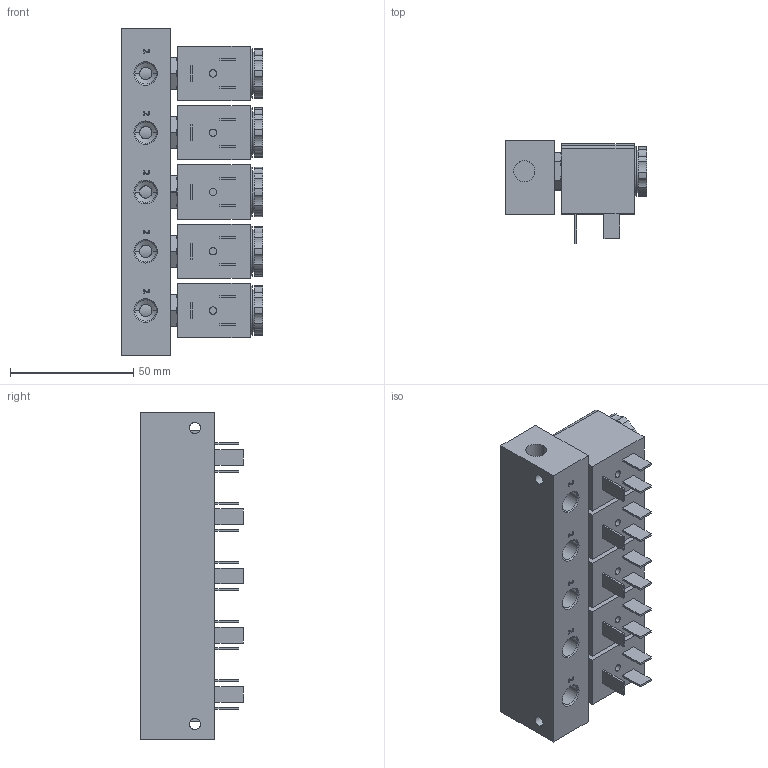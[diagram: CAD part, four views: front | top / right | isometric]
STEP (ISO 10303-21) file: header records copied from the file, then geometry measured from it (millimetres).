
FILE_DESCRIPTION (( 'STEP AP214' ), '1' );
FILE_NAME ('MS-18-310_5-HN-412_Airtec.step', '2018-12-14T07:41:48', ( '' ), ( '' ), 'SwSTEP 2.0', 'SolidWorks 2010', '' );
FILE_SCHEMA (( 'AUTOMOTIVE_DESIGN' ));
Length unit declared in the file: millimetre
Products named in the file (3): Volumenkörper4; Volumenkörper1; MS-18-310_5-HN-412_Airtec
Assembly tree (6 placements, depth 2):
  MS-18-310_5-HN-412_Airtec
    Volumenkörper1  x5
    Volumenkörper4
Bounding box: 57.45 x 41.7 x 132 mm (x, y, z)
Volume: 175326.6 mm3; surface area: 54687.3 mm2
Topology: 6 solids, 16 shells, 1047 faces, 2563 edges, 1662 vertices
Faces by surface type: cylinder 382, plane 350, bspline 140, cone 135, torus 40
Entity records: 37882 total; most frequent: CARTESIAN_POINT 10411, ORIENTED_EDGE 4502, DIRECTION 4193, EDGE_CURVE 2251, AXIS2_PLACEMENT_3D 1623, VERTEX_POINT 1454, EDGE_LOOP 1035, LINE 947
